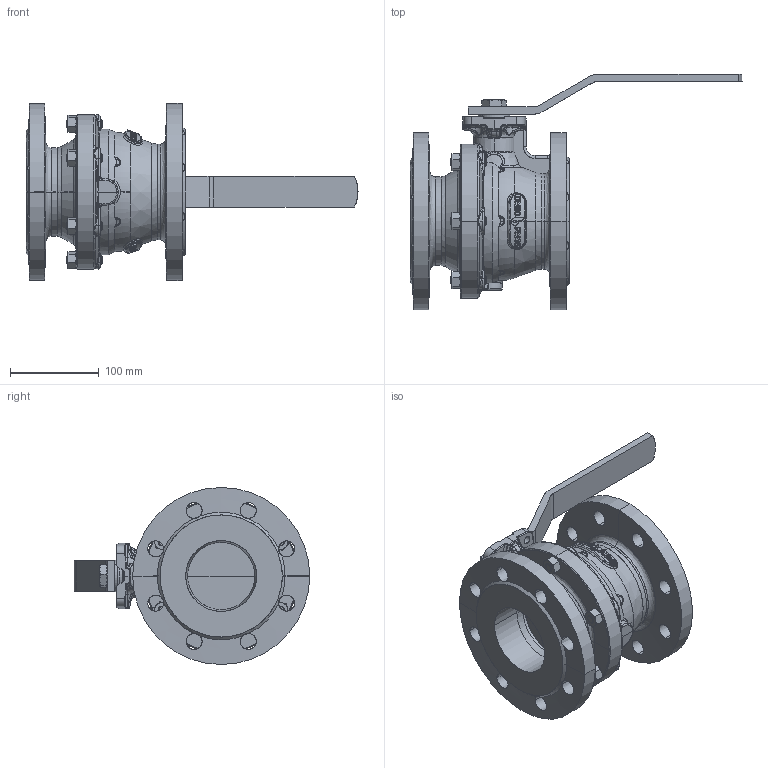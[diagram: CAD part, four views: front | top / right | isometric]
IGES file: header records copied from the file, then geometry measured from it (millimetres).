
Start section: SolidWorks IGES file using analytic representation for surfaces
Global section: file name: C:\Documents and Settings\Luca.Saino\Desktop\B2 IGES+DWG\IGES\B2.100I080L16CN.IGS; native system: SolidWorks 2008; preprocessor: SolidWorks 2008; author: Luca.Saino; date: 080617.103641; units: millimetre
Bounding box: 375 x 266 x 200 mm (x, y, z)
Surface area: 304152.9 mm2 (no closed solid volume)
Topology: 0 solids, 0 shells, 1301 faces, 20459 edges, 20435 vertices
Faces by surface type: bspline 790, revolution 511
